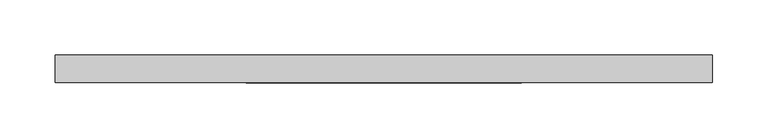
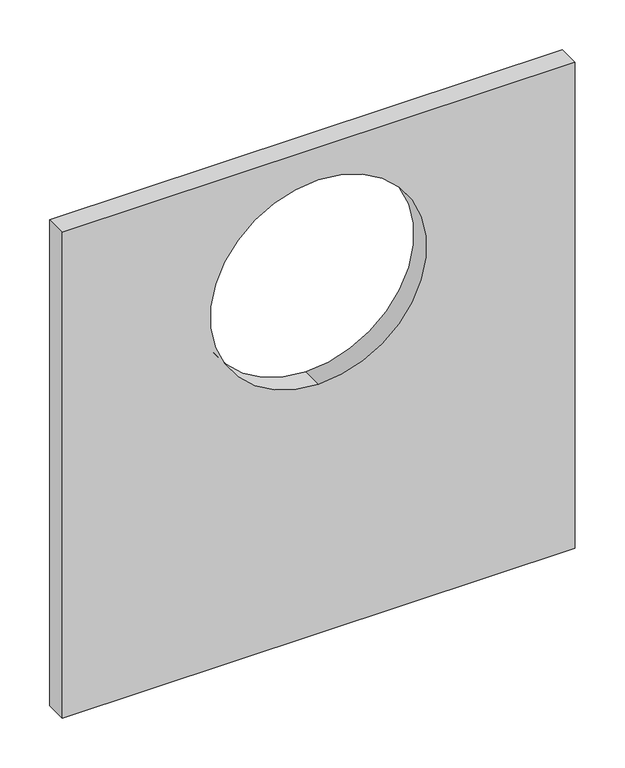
"""IFC4 building model written with IfcOpenShell, lengths in millimetres: valve geometry, Pipelife - Stormbox II - Płyta boczna połączeniowa : Płyta boczna połączeniowa."""

from ifc_helpers import new_model, si_unit, point, frame, frame_2d, origin, place, context, project, spatial, polyline, circle_curve, trimmed, segment, composite_curve, outline, extrude, source, transform, mapped, element, save


def valve_ccfea8b2(model_context):
    return source(origin(), model_context, "Body", "SweptSolid", [
        extrude(outline(polyline([(297.5, 297.0), (297.5, -297.0), (-297.5, -297.0), (-297.5, 297.0), (297.5, 297.0)]), holes=[composite_curve([segment(trimmed(circle_curve(frame_2d((132.5, 0.0)), 125.0), [point((257.5, 0.0))], [point((7.5, 0.0))], True, "CARTESIAN"), True, "CONTINUOUS"), segment(trimmed(circle_curve(frame_2d((132.5, 0.0)), 125.0), [point((7.5, 0.0))], [point((257.5, 0.0))], True, "CARTESIAN"), True, "CONTINUOUS")], self_intersect=False)]), frame((0.0, -25.0, 0.0), z_axis=(0.0, 1.0, 0.0), x_axis=(0.0, 0.0, 1.0)), (0.0, 0.0, 1.0), 25.0),
    ])


if __name__ == "__main__":
    model = new_model("IFC4")
    model_context = context("Model", 3, world=origin())
    ifc_project = project(units=[si_unit("LENGTHUNIT", "METRE", prefix="MILLI")], contexts=[model_context])
    site = spatial("IfcSite", under=ifc_project)
    building = spatial("IfcBuilding", under=site)
    placement = place(None, origin())
    valve_shape = valve_ccfea8b2(model_context)
    element("IfcValve", 1, ObjectType="Pipelife - Stormbox II - Płyta boczna połączeniowa : Płyta boczna połączeniowa", at=placement, inside=building, context=model_context, shape_type="MappedRepresentation", body=[
        mapped(valve_shape, transform((0.0, 0.0, 0.0), x_axis=(1.0, 0.0, 0.0), y_axis=(0.0, 1.0, 0.0), z_axis=(0.0, 0.0, 1.0))),
    ])
    save(model, "model.ifc")
